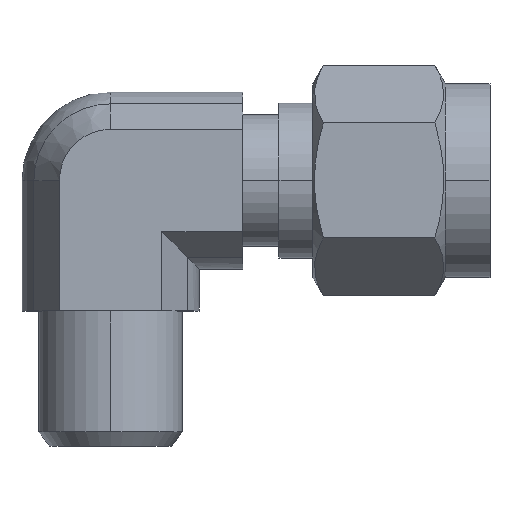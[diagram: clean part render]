
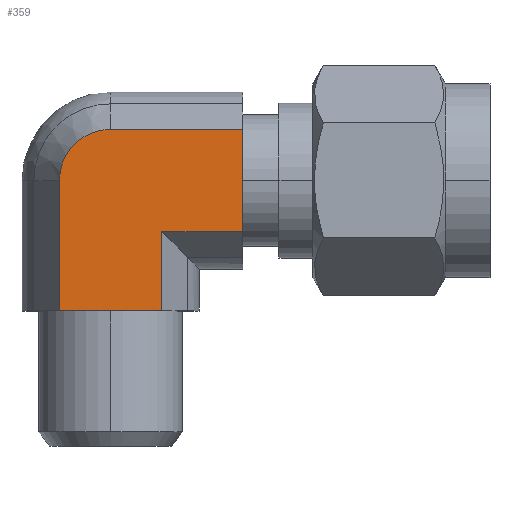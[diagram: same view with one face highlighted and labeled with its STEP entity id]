
A CAD part, top view. The second image highlights one B-rep face of the part: STEP entity #359.
In plain terms, the highlighted planar face has unit normal (0, 0, 1).
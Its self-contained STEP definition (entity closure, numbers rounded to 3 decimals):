
#34 = VERTEX_POINT ( 'NONE', #646 ) ;
#246 = ORIENTED_EDGE ( 'NONE', *, *, #247, .F. ) ;
#247 = EDGE_CURVE ( 'NONE', #254, #363, #1283, .T. ) ;
#248 = ORIENTED_EDGE ( 'NONE', *, *, #274, .F. ) ;
#249 = ORIENTED_EDGE ( 'NONE', *, *, #558, .T. ) ;
#250 = ORIENTED_EDGE ( 'NONE', *, *, #353, .F. ) ;
#254 = VERTEX_POINT ( 'NONE', #1274 ) ;
#268 = ORIENTED_EDGE ( 'NONE', *, *, #540, .T. ) ;
#274 = EDGE_CURVE ( 'NONE', #34, #254, #1205, .T. ) ;
#353 = EDGE_CURVE ( 'NONE', #354, #556, #1522, .T. ) ;
#354 = VERTEX_POINT ( 'NONE', #1517 ) ;
#355 = ORIENTED_EDGE ( 'NONE', *, *, #356, .F. ) ;
#356 = EDGE_CURVE ( 'NONE', #541, #354, #1516, .T. ) ;
#359 = ADVANCED_FACE ( 'NONE', ( #1512 ), #1510, .F. ) ;
#360 = EDGE_LOOP ( 'NONE', ( #361, #246, #248, #249, #250, #355, #268 ) ) ;
#361 = ORIENTED_EDGE ( 'NONE', *, *, #362, .T. ) ;
#362 = EDGE_CURVE ( 'NONE', #538, #363, #1511, .T. ) ;
#363 = VERTEX_POINT ( 'NONE', #1492 ) ;
#538 = VERTEX_POINT ( 'NONE', #1692 ) ;
#540 = EDGE_CURVE ( 'NONE', #541, #538, #1691, .T. ) ;
#541 = VERTEX_POINT ( 'NONE', #1687 ) ;
#556 = VERTEX_POINT ( 'NONE', #1664 ) ;
#558 = EDGE_CURVE ( 'NONE', #34, #556, #1641, .T. ) ;
#646 = CARTESIAN_POINT ( 'NONE',  ( 9.47, 3.666, 6.35 ) ) ;
#1202 = DIRECTION ( 'NONE',  ( 0., -1., 0. ) ) ;
#1203 = VECTOR ( 'NONE', #1202, 1000. ) ;
#1204 = CARTESIAN_POINT ( 'NONE',  ( 9.47, 3.666, 6.35 ) ) ;
#1205 = LINE ( 'NONE', #1204, #1203 ) ;
#1274 = CARTESIAN_POINT ( 'NONE',  ( 9.47, -3.666, 6.35 ) ) ;
#1280 = DIRECTION ( 'NONE',  ( -1., 0., 0. ) ) ;
#1281 = VECTOR ( 'NONE', #1280, 1000. ) ;
#1282 = CARTESIAN_POINT ( 'NONE',  ( 9.47, -3.666, 6.35 ) ) ;
#1283 = LINE ( 'NONE', #1282, #1281 ) ;
#1492 = CARTESIAN_POINT ( 'NONE',  ( 3.666, -3.666, 6.35 ) ) ;
#1493 = DIRECTION ( 'NONE',  ( 0., 1., 0. ) ) ;
#1494 = VECTOR ( 'NONE', #1493, 1000. ) ;
#1495 = CARTESIAN_POINT ( 'NONE',  ( 3.666, -9.35, 6.35 ) ) ;
#1506 = DIRECTION ( 'NONE',  ( -1., 0., 0. ) ) ;
#1507 = DIRECTION ( 'NONE',  ( 0., 0., -1. ) ) ;
#1508 = CARTESIAN_POINT ( 'NONE',  ( 9.47, 3.666, 6.35 ) ) ;
#1509 = AXIS2_PLACEMENT_3D ( 'NONE', #1508, #1507, #1506 ) ;
#1510 = PLANE ( 'NONE',  #1509 ) ;
#1511 = LINE ( 'NONE', #1495, #1494 ) ;
#1512 = FACE_OUTER_BOUND ( 'NONE', #360, .T. ) ;
#1513 = DIRECTION ( 'NONE',  ( 0., 1., 0. ) ) ;
#1514 = VECTOR ( 'NONE', #1513, 1000. ) ;
#1515 = CARTESIAN_POINT ( 'NONE',  ( -3.666, -9.35, 6.35 ) ) ;
#1516 = LINE ( 'NONE', #1515, #1514 ) ;
#1517 = CARTESIAN_POINT ( 'NONE',  ( -3.666, 0., 6.35 ) ) ;
#1518 = DIRECTION ( 'NONE',  ( 0., 1., 0. ) ) ;
#1519 = DIRECTION ( 'NONE',  ( 0., 0., -1. ) ) ;
#1520 = CARTESIAN_POINT ( 'NONE',  ( 0., 0., 6.35 ) ) ;
#1521 = AXIS2_PLACEMENT_3D ( 'NONE', #1520, #1519, #1518 ) ;
#1522 = CIRCLE ( 'NONE', #1521, 3.666 ) ;
#1638 = DIRECTION ( 'NONE',  ( -1., 0., 0. ) ) ;
#1639 = VECTOR ( 'NONE', #1638, 1000. ) ;
#1640 = CARTESIAN_POINT ( 'NONE',  ( 9.47, 3.666, 6.35 ) ) ;
#1641 = LINE ( 'NONE', #1640, #1639 ) ;
#1664 = CARTESIAN_POINT ( 'NONE',  ( 0., 3.666, 6.35 ) ) ;
#1687 = CARTESIAN_POINT ( 'NONE',  ( -3.666, -9.35, 6.35 ) ) ;
#1688 = DIRECTION ( 'NONE',  ( 1., 0., 0. ) ) ;
#1689 = VECTOR ( 'NONE', #1688, 1000. ) ;
#1690 = CARTESIAN_POINT ( 'NONE',  ( -3.666, -9.35, 6.35 ) ) ;
#1691 = LINE ( 'NONE', #1690, #1689 ) ;
#1692 = CARTESIAN_POINT ( 'NONE',  ( 3.666, -9.35, 6.35 ) ) ;
